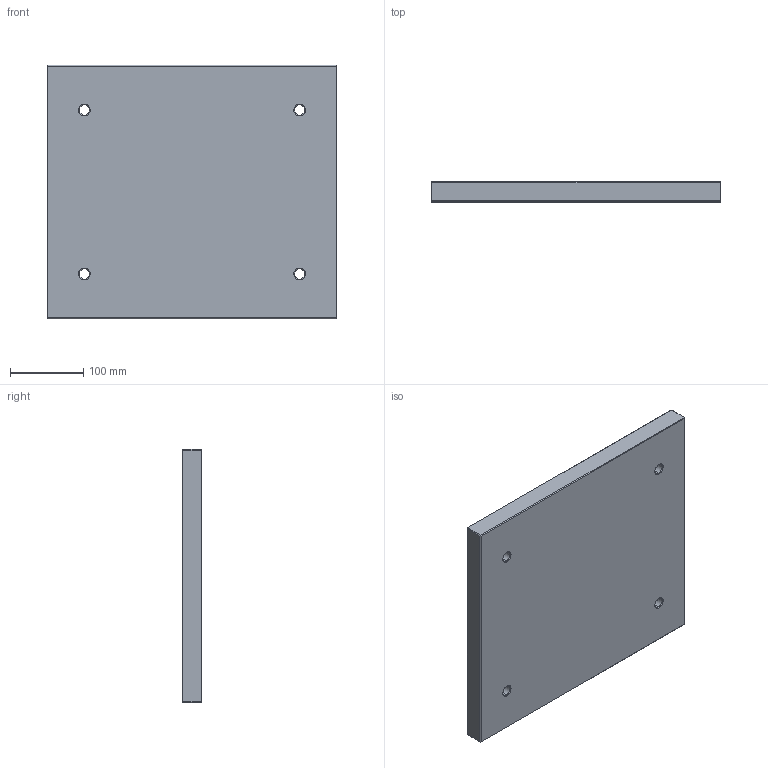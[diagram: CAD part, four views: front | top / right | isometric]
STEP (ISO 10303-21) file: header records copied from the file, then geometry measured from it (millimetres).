
FILE_DESCRIPTION (( 'STEP AP214' ), '1' );
FILE_NAME ('346x346x27.STEP', '2020-03-09T17:43:27', ( 'August' ), ( '' ), 'SwSTEP 2.0', 'SolidWorks 2018', '' );
FILE_SCHEMA (( 'AUTOMOTIVE_DESIGN' ));
Length unit declared in the file: millimetre
Products named in the file (1): 346x346x27
Bounding box: 396 x 27 x 346 mm (x, y, z)
Volume: 3672079.6 mm3; surface area: 316629.4 mm2
Topology: 1 solids, 1 shells, 62 faces, 128 edges, 72 vertices
Faces by surface type: plane 30, cone 16, cylinder 16
Entity records: 1650 total; most frequent: DIRECTION 302, CARTESIAN_POINT 263, ORIENTED_EDGE 256, EDGE_CURVE 128, AXIS2_PLACEMENT_3D 111, VECTOR 80, LINE 80, EDGE_LOOP 74
